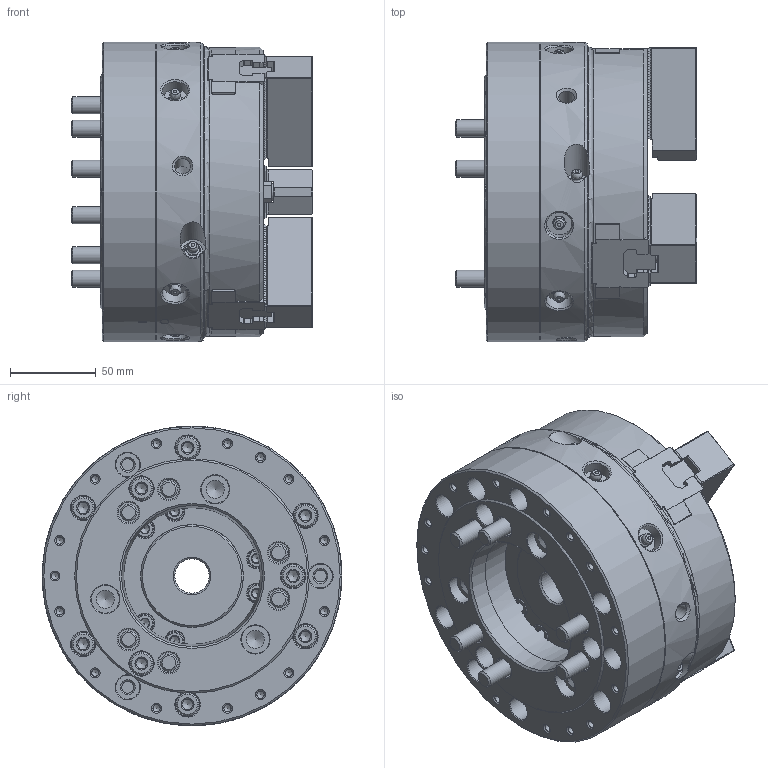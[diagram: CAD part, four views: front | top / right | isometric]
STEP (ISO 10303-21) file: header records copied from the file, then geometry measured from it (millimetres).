
FILE_DESCRIPTION (( 'STEP AP214' ), '1' );
FILE_NAME ('DT1_HOH-206_OUTSIDE_VIEW_HUL.STEP', '2024-05-09T06:18:29', ( '' ), ( '' ), 'SwSTEP 2.0', 'SolidWorks 2022', '' );
FILE_SCHEMA (( 'AUTOMOTIVE_DESIGN' ));
Length unit declared in the file: millimetre
Products named in the file (9): DT1_HOH-206_BASE^DT1_HOH-206_ﾃﾞﾌｫﾙﾄ; DT1_HOH-206_SOFTJAW^DT1_HOH-206_ﾃﾞﾌｫﾙﾄ; DT1_HOH-206_M10x25^DT1_HOH-206_ﾃﾞﾌｫﾙﾄ; DT1_HOH-206_OUTSIDE_VIEW_HUL; DT1_HOH-206_DRAWNUT^DT1_HOH-206_ﾃﾞﾌｫﾙﾄ; DT1_HOH-206_M5x10^DT1_HOH-206_ﾃﾞﾌｫﾙﾄ; DT1_HOH-206_COVER^DT1_HOH-206_ﾃﾞﾌｫﾙﾄ; DT1_HOH-206_M10x100^DT1_HOH-206_ﾃﾞﾌｫﾙﾄ; DT1_HOH-206_TNUT^DT1_HOH-206_ﾃﾞﾌｫﾙﾄ
Assembly tree (24 placements, depth 2):
  DT1_HOH-206_OUTSIDE_VIEW_HUL
    DT1_HOH-206_SOFTJAW^DT1_HOH-206_ﾃﾞﾌｫﾙﾄ  x3
    DT1_HOH-206_TNUT^DT1_HOH-206_ﾃﾞﾌｫﾙﾄ  x3
    DT1_HOH-206_DRAWNUT^DT1_HOH-206_ﾃﾞﾌｫﾙﾄ
    DT1_HOH-206_COVER^DT1_HOH-206_ﾃﾞﾌｫﾙﾄ
    DT1_HOH-206_BASE^DT1_HOH-206_ﾃﾞﾌｫﾙﾄ
    DT1_HOH-206_M5x10^DT1_HOH-206_ﾃﾞﾌｫﾙﾄ  x3
    DT1_HOH-206_M10x25^DT1_HOH-206_ﾃﾞﾌｫﾙﾄ  x6
    DT1_HOH-206_M10x100^DT1_HOH-206_ﾃﾞﾌｫﾙﾄ  x6
Bounding box: 141 x 175 x 175 mm (x, y, z)
Volume: 2013592 mm3; surface area: 314590.9 mm2
Topology: 24 solids, 56 shells, 3674 faces, 10016 edges, 6572 vertices
Faces by surface type: plane 2635, cone 406, cylinder 386, bspline 172, torus 57, sphere 18
Full cylindrical faces by diameter (mm): 4.2 x18, 5 x3, 5.5 x6, 6.4 x3, 7 x12, 8 x6, 8.6 x6, 9 x9, 9.5 x3, 10 x15, 11 x6, 11.5 x3, 12 x12, 13.27 x9, 14 x12, 15 x10, 16.27 x12, 16.28 x3, 17 x12, 20 x1, 45 x1, 48 x2, 55.5 x1, 57.8 x2, 60 x2, 65.5 x2, 79.8 x1, 170.6 x1, 171 x2, 171.4 x1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
Entity records: 106765 total; most frequent: CARTESIAN_POINT 36972, ORIENTED_EDGE 14884, DIRECTION 12747, EDGE_CURVE 7442, VERTEX_POINT 5063, VECTOR 4911, LINE 4911, AXIS2_PLACEMENT_3D 3918
